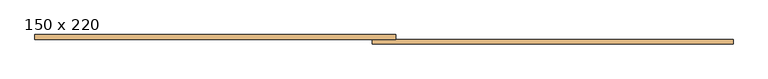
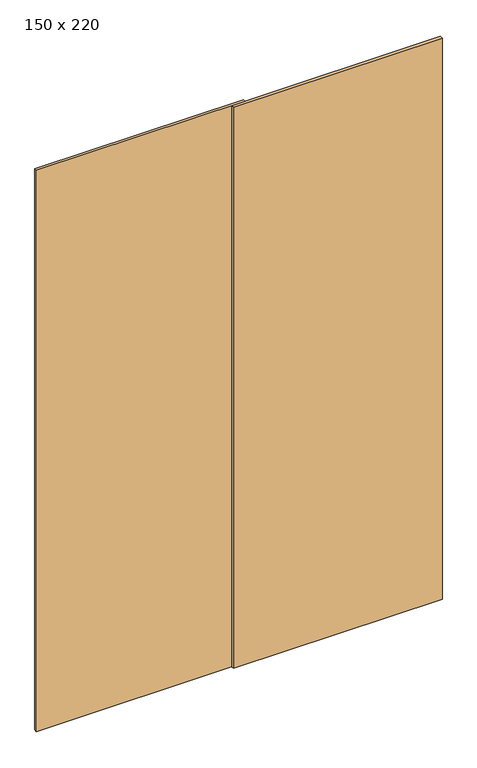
"""IFC4 building model written with IfcOpenShell, lengths in millimetres: door geometry, PORTA DE VIDRO DE CORRER - 2 FOLHAS : 150 x 220."""

from ifc_helpers import new_model, si_unit, origin, origin_with_axes, place, context, project, spatial, polyline, outline, extrude, source, transform, mapped, element, save


def door_150_x_220_4ef38597(model_context):
    return source(origin(), model_context, "Body", "SweptSolid", [
        extrude(outline(polyline([(-670.0, -49.3424922), (105.0, -49.3424922), (105.0, -59.3424922), (-670.0, -59.3424922), (-670.0, -49.3424922)])), origin_with_axes(), (0.0, 0.0, 1.0), 2200.0),
        extrude(outline(polyline([(830.0, -59.3424922), (830.0, -69.3424922), (55.0, -69.3424922), (55.0, -59.3424922), (830.0, -59.3424922)])), origin_with_axes(), (0.0, 0.0, 1.0), 2200.0),
    ])


if __name__ == "__main__":
    model = new_model("IFC4")
    model_context = context("Model", 3, world=origin())
    ifc_project = project(units=[si_unit("LENGTHUNIT", "METRE", prefix="MILLI")], contexts=[model_context])
    site = spatial("IfcSite", under=ifc_project)
    building = spatial("IfcBuilding", under=site)
    placement = place(None, origin())
    door_150_x_220_shape = door_150_x_220_4ef38597(model_context)
    element("IfcDoor", 1, ObjectType="PORTA DE VIDRO DE CORRER - 2 FOLHAS : 150 x 220", at=placement, inside=building, context=model_context, shape_type="MappedRepresentation", body=[
        mapped(door_150_x_220_shape, transform((0.0, 0.0, 0.0), x_axis=(1.0, 0.0, 0.0), y_axis=(0.0, 1.0, 0.0), z_axis=(0.0, 0.0, 1.0))),
    ])
    save(model, "model.ifc")
